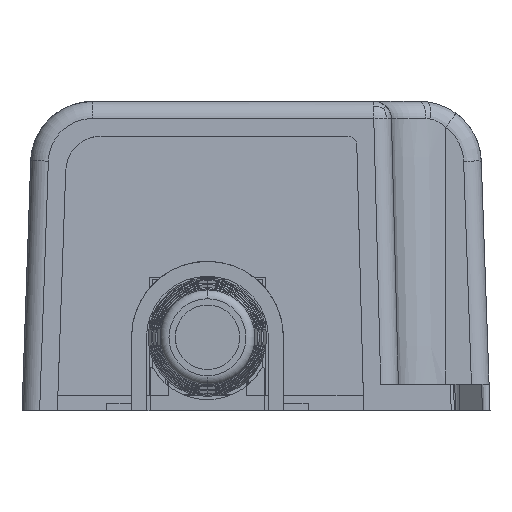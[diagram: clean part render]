
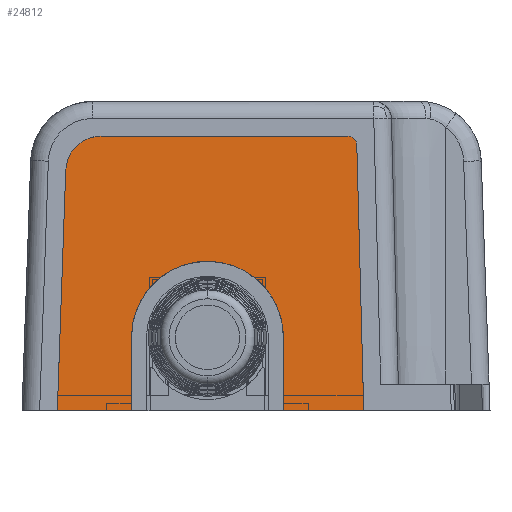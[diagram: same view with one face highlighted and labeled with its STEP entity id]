
A CAD part, left-side view. The second image highlights one B-rep face of the part: STEP entity #24812.
In plain terms, the highlighted planar face has unit normal (-0.999, 0, 0.035).
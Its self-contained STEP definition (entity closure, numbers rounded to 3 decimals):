
#120=DIRECTION('',(0.,-1.,0.));
#121=VECTOR('',#120,8.399);
#122=CARTESIAN_POINT('',(-55.1,23.5,
-0.495));
#123=LINE('',#122,#121);
#1038=DIRECTION('',(0.035,-0.035,0.999));
#1039=VECTOR('',#1038,27.23);
#1040=CARTESIAN_POINT('',(-55.1,23.5,
-0.495));
#1041=LINE('',#1040,#1039);
#1045=CARTESIAN_POINT('',(-54.155,18.552,26.563));
#1046=DIRECTION('',(0.999,0.,-0.035));
#1047=DIRECTION('',(0.001,0.999,0.035));
#1048=AXIS2_PLACEMENT_3D('',#1045,#1046,#1047);
#1053=DIRECTION('',(0.,-1.,0.));
#1054=VECTOR('',#1053,27.965);
#1055=CARTESIAN_POINT('',(-54.015,18.552,30.56));
#1056=LINE('',#1055,#1054);
#1060=CARTESIAN_POINT('',(-54.05,-9.413,
29.561));
#1061=DIRECTION('',(0.999,0.,-0.035));
#1062=DIRECTION('',(0.035,0.,0.999));
#1063=AXIS2_PLACEMENT_3D('',#1060,#1061,#1062);
#1068=DIRECTION('',(-0.035,-0.026,-0.999));
#1069=VECTOR('',#1068,30.109);
#1070=CARTESIAN_POINT('',(-54.049,-10.413,
29.587));
#1071=LINE('',#1070,#1069);
#1075=DIRECTION('',(0.,1.,0.));
#1076=VECTOR('',#1075,9.1);
#1077=CARTESIAN_POINT('',(-55.1,-11.201,
-0.493));
#1078=LINE('',#1077,#1076);
#1082=DIRECTION('',(-0.035,0.,-0.999));
#1083=VECTOR('',#1082,8.294);
#1084=CARTESIAN_POINT('',(-54.81,-2.1,
7.797));
#1085=LINE('',#1084,#1083);
#1117=CARTESIAN_POINT('',(-54.81,15.1,7.797));
#1118=CARTESIAN_POINT('',(-54.789,15.1,8.408));
#1119=CARTESIAN_POINT('',(-54.747,14.975,9.591));
#1120=CARTESIAN_POINT('',(-54.687,14.417,11.32));
#1121=CARTESIAN_POINT('',(-54.632,13.509,12.89));
#1122=CARTESIAN_POINT('',(-54.586,12.311,14.225));
#1123=CARTESIAN_POINT('',(-54.548,10.843,15.297));
#1124=CARTESIAN_POINT('',(-54.522,9.185,16.037));
#1125=CARTESIAN_POINT('',(-54.509,7.413,16.415));
#1126=CARTESIAN_POINT('',(-54.509,5.604,16.416));
#1127=CARTESIAN_POINT('',(-54.522,3.836,16.043));
#1128=CARTESIAN_POINT('',(-54.548,2.183,15.311));
#1129=CARTESIAN_POINT('',(-54.585,0.714,
14.247));
#1130=CARTESIAN_POINT('',(-54.631,-0.493,
12.913));
#1131=CARTESIAN_POINT('',(-54.686,-1.41,
11.338));
#1132=CARTESIAN_POINT('',(-54.747,-1.974,
9.599));
#1133=CARTESIAN_POINT('',(-54.789,-2.1,
8.411));
#1134=CARTESIAN_POINT('',(-54.81,-2.1,
7.797));
#19780=DIRECTION('',(0.035,0.,0.999));
#19781=VECTOR('',#19780,8.296);
#19782=CARTESIAN_POINT('',(-55.1,15.1,
-0.494));
#19783=LINE('',#19782,#19781);
#20963=CARTESIAN_POINT('',(-55.1,23.5,
-0.495));
#20964=VERTEX_POINT('',#20963);
#20965=CARTESIAN_POINT('',(-55.1,15.1,
-0.494));
#20966=VERTEX_POINT('',#20965);
#21180=CARTESIAN_POINT('',(-55.099,-2.1,
-0.492));
#21181=VERTEX_POINT('',#21180);
#21182=CARTESIAN_POINT('',(-55.1,-11.201,
-0.493));
#21183=VERTEX_POINT('',#21182);
#21220=CARTESIAN_POINT('',(-54.049,-10.413,
29.587));
#21221=VERTEX_POINT('',#21220);
#21222=CARTESIAN_POINT('',(-54.015,-9.413,
30.56));
#21223=VERTEX_POINT('',#21222);
#21224=CARTESIAN_POINT('',(-54.015,18.552,
30.56));
#21225=VERTEX_POINT('',#21224);
#21226=CARTESIAN_POINT('',(-54.81,-2.1,
7.797));
#21227=VERTEX_POINT('',#21226);
#21228=VERTEX_POINT('',#1117);
#21229=CARTESIAN_POINT('',(-54.15,22.55,
26.702));
#21230=VERTEX_POINT('',#21229);
#24790=CARTESIAN_POINT('',(-54.273,-0.15,
23.181));
#24791=DIRECTION('',(-0.999,0.,0.035));
#24792=DIRECTION('',(0.,-1.,0.));
#24793=AXIS2_PLACEMENT_3D('',#24790,#24791,#24792);
#24794=PLANE('',#24793);
#24796=ORIENTED_EDGE('',*,*,#24795,.F.);
#24798=ORIENTED_EDGE('',*,*,#24797,.F.);
#24800=ORIENTED_EDGE('',*,*,#24799,.F.);
#24801=ORIENTED_EDGE('',*,*,#24238,.F.);
#24803=ORIENTED_EDGE('',*,*,#24802,.T.);
#24805=ORIENTED_EDGE('',*,*,#24804,.T.);
#24806=ORIENTED_EDGE('',*,*,#24782,.T.);
#24807=ORIENTED_EDGE('',*,*,#24771,.T.);
#24808=ORIENTED_EDGE('',*,*,#24757,.T.);
#24809=ORIENTED_EDGE('',*,*,#24661,.T.);
#24810=EDGE_LOOP('',(#24796,#24798,#24800,#24801,#24803,#24805,#24806,#24807,
#24808,#24809));
#24811=FACE_OUTER_BOUND('',#24810,.F.);
#1049=CIRCLE('',#1048,4.);
#1064=CIRCLE('',#1063,1.);
#1135=B_SPLINE_CURVE_WITH_KNOTS('',3,(#1117,#1118,#1119,#1120,#1121,#1122,#1123,
#1124,#1125,#1126,#1127,#1128,#1129,#1130,#1131,#1132,#1133,#1134),
.UNSPECIFIED.,.F.,.F.,(4,1,1,1,1,1,1,1,1,1,1,1,1,1,1,4),(0.,0.067,
0.133,0.2,0.267,0.333,0.4,
0.467,0.533,0.6,0.667,0.733,
0.8,0.867,0.933,1.),.UNSPECIFIED.);
#24238=EDGE_CURVE('',#20964,#20966,#123,.T.);
#24661=EDGE_CURVE('',#21183,#21181,#1078,.T.);
#24757=EDGE_CURVE('',#21221,#21183,#1071,.T.);
#24771=EDGE_CURVE('',#21223,#21221,#1064,.T.);
#24782=EDGE_CURVE('',#21225,#21223,#1056,.T.);
#24795=EDGE_CURVE('',#21227,#21181,#1085,.T.);
#24797=EDGE_CURVE('',#21228,#21227,#1135,.T.);
#24799=EDGE_CURVE('',#20966,#21228,#19783,.T.);
#24802=EDGE_CURVE('',#20964,#21230,#1041,.T.);
#24804=EDGE_CURVE('',#21230,#21225,#1049,.T.);
#24812=ADVANCED_FACE('',(#24811),#24794,.T.);
